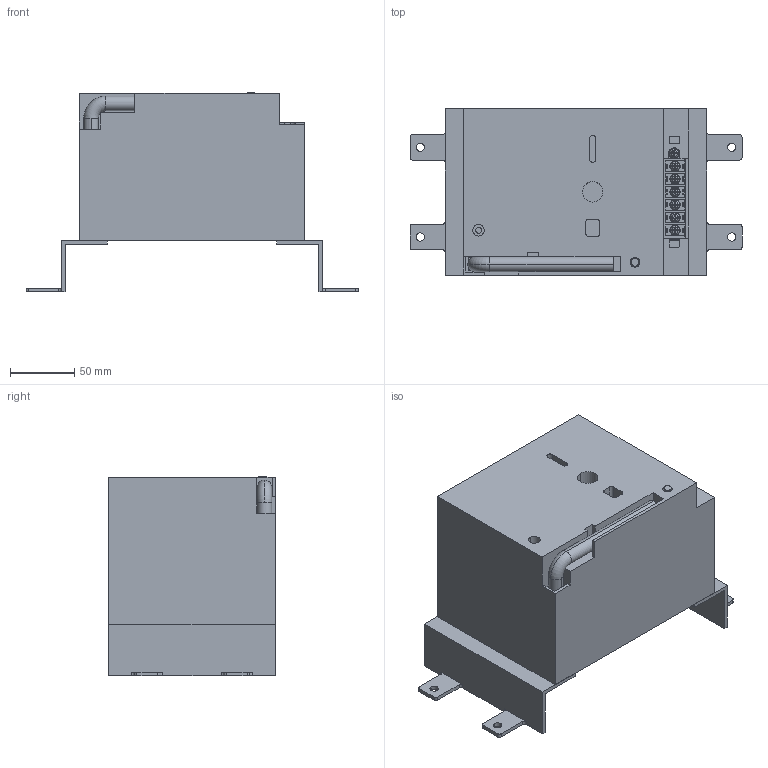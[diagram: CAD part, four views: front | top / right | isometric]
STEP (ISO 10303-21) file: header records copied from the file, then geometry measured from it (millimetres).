
FILE_DESCRIPTION (( 'STEP AP214' ), '1' );
FILE_NAME ('TGM1NE-1250.STEP', '2026-06-11T07:50:59', ( '' ), ( '' ), 'SwSTEP 2.0', 'SolidWorks 2024', '' );
FILE_SCHEMA (( 'AUTOMOTIVE_DESIGN' ));
Length unit declared in the file: millimetre
Products named in the file (22): TGM1NE-1250.sldasm-Part-18; TGM1NE-1250.sldasm-Part-9; TGM1NE-1250.sldasm-Part-17; TGM1NE-1250.sldasm-Part-6; TGM1NE-1250.sldasm-Part-5; TGM1NE-1250.sldasm-Part-1; TGM1NE-1250.sldasm-Part-12; TGM1NE-1250.sldasm-Part-16; TGM1NE-1250.sldasm-Part-3; TGM1NE-1250.sldasm-Part-4; TGM1NE-1250.sldasm-Part-10; TGM1NE-1250; TGM1NE-1250.sldasm-Part-19; TGM1NE-1250.sldasm-Part-7; TGM1NE-1250.sldasm-Part-21; TGM1NE-1250.sldasm-Part-14; TGM1NE-1250.sldasm-Part-15; TGM1NE-1250.sldasm-Part-13; TGM1NE-1250.sldasm-Part-2; TGM1NE-1250.sldasm-Part-8; TGM1NE-1250.sldasm-Part-11; TGM1NE-1250.sldasm-Part-20
Assembly tree (21 placements, depth 2):
  TGM1NE-1250
    TGM1NE-1250.sldasm-Part-1
    TGM1NE-1250.sldasm-Part-2
    TGM1NE-1250.sldasm-Part-3
    TGM1NE-1250.sldasm-Part-4
    TGM1NE-1250.sldasm-Part-5
    TGM1NE-1250.sldasm-Part-6
    TGM1NE-1250.sldasm-Part-7
    TGM1NE-1250.sldasm-Part-8
    TGM1NE-1250.sldasm-Part-9
    TGM1NE-1250.sldasm-Part-10
    TGM1NE-1250.sldasm-Part-11
    TGM1NE-1250.sldasm-Part-12
    TGM1NE-1250.sldasm-Part-13
    TGM1NE-1250.sldasm-Part-14
    TGM1NE-1250.sldasm-Part-15
    TGM1NE-1250.sldasm-Part-16
    TGM1NE-1250.sldasm-Part-17
    TGM1NE-1250.sldasm-Part-18
    TGM1NE-1250.sldasm-Part-19
    TGM1NE-1250.sldasm-Part-20
    TGM1NE-1250.sldasm-Part-21
Bounding box: 259 x 130 x 156 mm (x, y, z)
Volume: 2564617.7 mm3; surface area: 207926.6 mm2
Topology: 21 solids, 21 shells, 602 faces, 1476 edges, 953 vertices
Faces by surface type: plane 353, cylinder 121, cone 56, torus 30, bspline 28, sphere 14
Entity records: 21791 total; most frequent: CARTESIAN_POINT 7031, ORIENTED_EDGE 2924, DIRECTION 2918, EDGE_CURVE 1462, AXIS2_PLACEMENT_3D 1110, VERTEX_POINT 953, LINE 698, VECTOR 698
